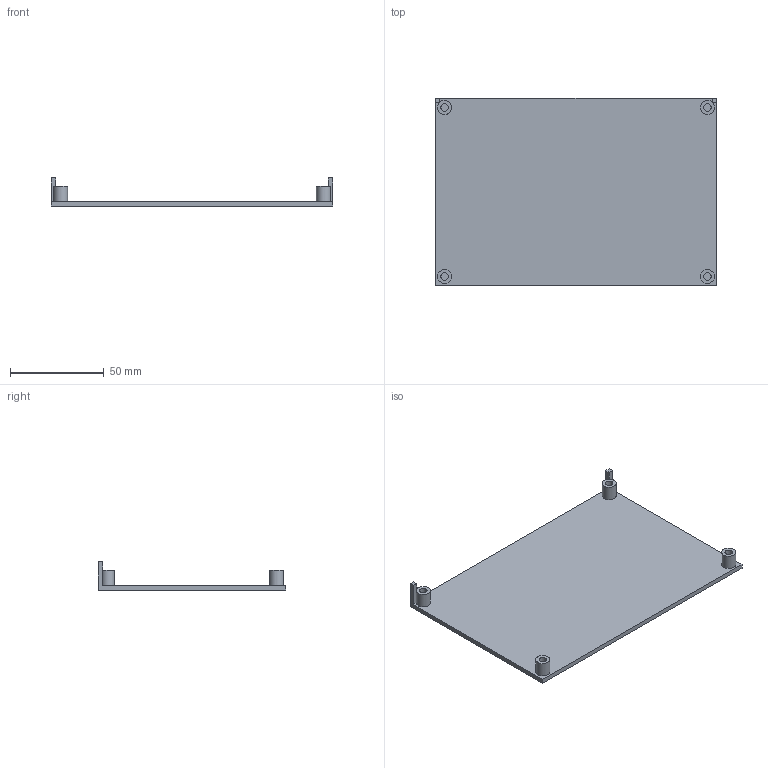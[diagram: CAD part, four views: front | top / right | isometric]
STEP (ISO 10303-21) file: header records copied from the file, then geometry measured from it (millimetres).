
FILE_DESCRIPTION(('Open CASCADE Model'),'2;1');
FILE_NAME('Open CASCADE Shape Model','2026-09-13T22:06:43',('Author'),( 'Open CASCADE'),'Open CASCADE STEP processor 7.9','Open CASCADE 7.9' ,'Unknown');
FILE_SCHEMA(('AUTOMOTIVE_DESIGN { 1 0 10303 214 1 1 1 1 }'));
Length unit declared in the file: millimetre
Products named in the file (1): Open CASCADE STEP translator 7.9 1
Bounding box: 150 x 100 x 15 mm (x, y, z)
Volume: 38747.5 mm3; surface area: 32559.6 mm2
Topology: 1 solids, 1 shells, 29 faces, 63 edges, 42 vertices
Faces by surface type: plane 20, cylinder 9
Full cylindrical faces by diameter (mm): 4 x4, 7.5 x2
Entity records: 1618 total; most frequent: CARTESIAN_POINT 321, DIRECTION 237, LINE 129, VECTOR 129, ORIENTED_EDGE 126, PCURVE 126, DEFINITIONAL_REPRESENTATION 126, EDGE_CURVE 63
